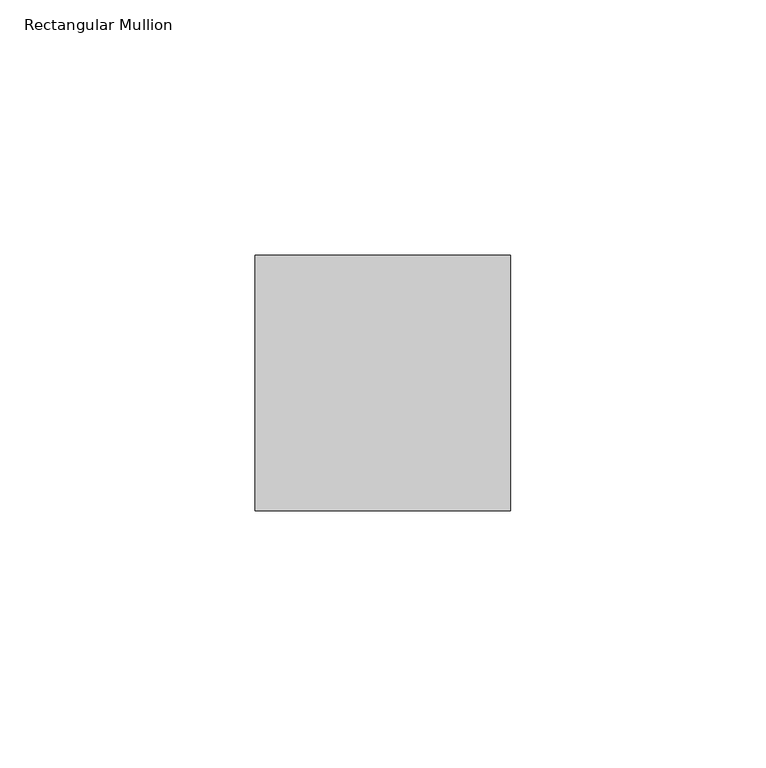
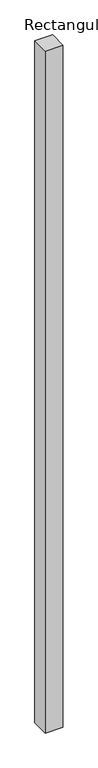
"""IFC4 building model written with IfcOpenShell, lengths in millimetres: member geometry, Rectangular Mullion : Mullion_Curtain Wall_Generic Showcase_50x50mm."""

from ifc_helpers import new_model, si_unit, frame, origin, place, context, project, spatial, polyline, outline, extrude, source, transform, mapped, element, save


def rectangular_mullion_ccb72c30(model_context):
    return source(origin(), model_context, "Body", "SweptSolid", [
        extrude(outline(polyline([(0.0, 50.0), (0.0, 0.0), (-50.0, 0.0), (-50.0, 50.0), (0.0, 50.0)])), frame((0.0, 0.0, -2025.0), z_axis=(0.0, 0.0, 1.0), x_axis=(1.0, 0.0, 0.0)), (0.0, 0.0, 1.0), 2025.0),
    ])


if __name__ == "__main__":
    model = new_model("IFC4")
    model_context = context("Model", 3, world=origin())
    ifc_project = project(units=[si_unit("LENGTHUNIT", "METRE", prefix="MILLI")], contexts=[model_context])
    site = spatial("IfcSite", under=ifc_project)
    building = spatial("IfcBuilding", under=site)
    placement = place(None, origin())
    rectangular_mullion_shape = rectangular_mullion_ccb72c30(model_context)
    element("IfcMember", 1, ObjectType="Rectangular Mullion : Mullion_Curtain Wall_Generic Showcase_50x50mm", at=placement, inside=building, context=model_context, shape_type="MappedRepresentation", body=[
        mapped(rectangular_mullion_shape, transform((0.0, 0.0, 0.0), x_axis=(1.0, 0.0, 0.0), y_axis=(0.0, 1.0, 0.0), z_axis=(0.0, 0.0, 1.0))),
    ])
    save(model, "model.ifc")
